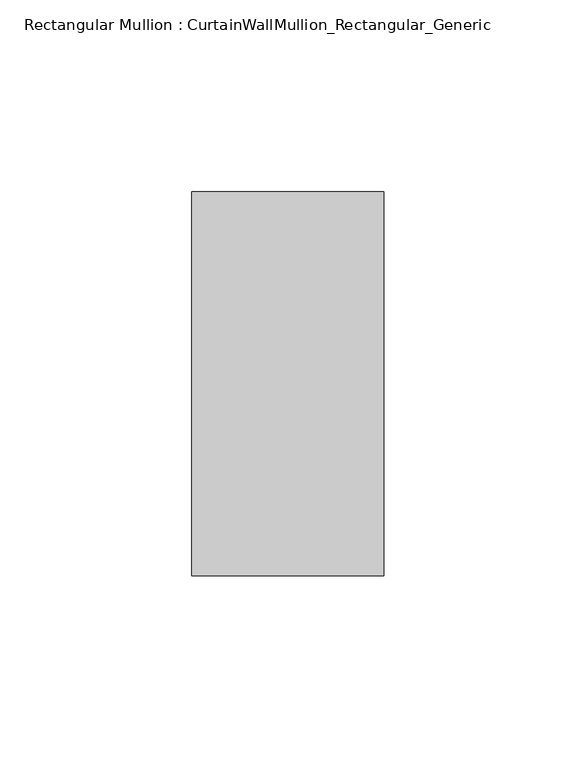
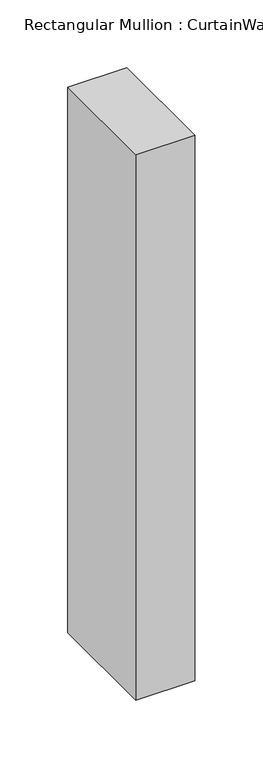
"""IFC4 building model written with IfcOpenShell, lengths in millimetres: member geometry, Rectangular Mullion : CurtainWallMullion_Rectangular_Generic."""

from ifc_helpers import new_model, si_unit, frame, origin, place, context, project, spatial, polyline, outline, extrude, source, transform, mapped, element, save


def rectangular_mullion_curtainwallmullion_rectangular_generic_31fc3073(model_context):
    return source(origin(), model_context, "Body", "SweptSolid", [
        extrude(outline(polyline([(0.0, 50.0), (0.0, -50.0), (-50.0, -50.0), (-50.0, 50.0), (0.0, 50.0)])), frame((0.0, 0.0, -490.0), z_axis=(0.0, 0.0, 1.0), x_axis=(1.0, 0.0, 0.0)), (0.0, 0.0, 1.0), 490.0),
    ])


if __name__ == "__main__":
    model = new_model("IFC4")
    model_context = context("Model", 3, world=origin())
    ifc_project = project(units=[si_unit("LENGTHUNIT", "METRE", prefix="MILLI")], contexts=[model_context])
    site = spatial("IfcSite", under=ifc_project)
    building = spatial("IfcBuilding", under=site)
    placement = place(None, origin())
    rectangular_mullion_curtainwallmullion_rectangular_generic_shape = rectangular_mullion_curtainwallmullion_rectangular_generic_31fc3073(model_context)
    element("IfcMember", 1, ObjectType="Rectangular Mullion : CurtainWallMullion_Rectangular_Generic", at=placement, inside=building, context=model_context, shape_type="MappedRepresentation", body=[
        mapped(rectangular_mullion_curtainwallmullion_rectangular_generic_shape, transform((0.0, 0.0, 0.0), x_axis=(1.0, 0.0, 0.0), y_axis=(0.0, 1.0, 0.0), z_axis=(0.0, 0.0, 1.0))),
    ])
    save(model, "model.ifc")
